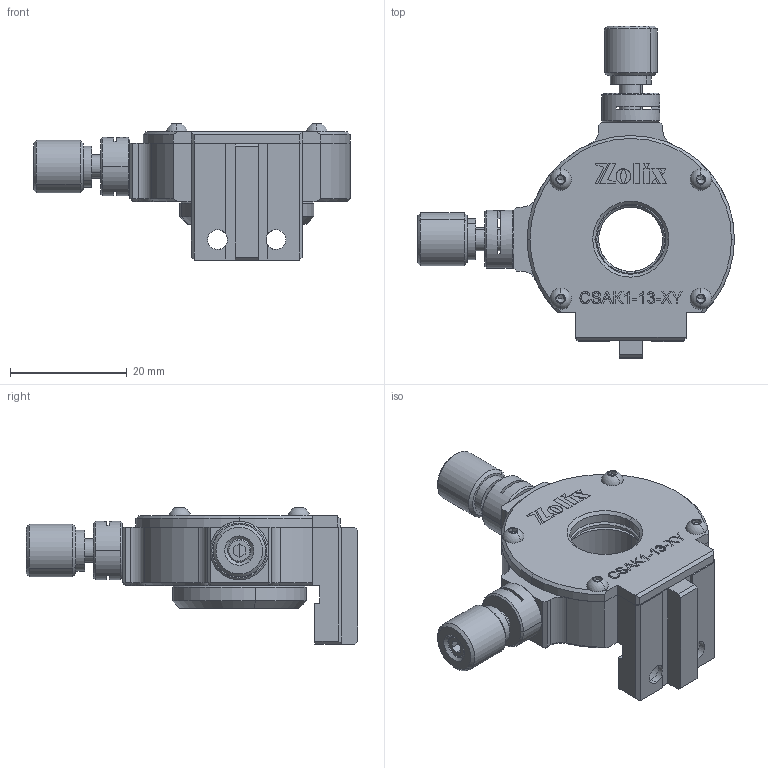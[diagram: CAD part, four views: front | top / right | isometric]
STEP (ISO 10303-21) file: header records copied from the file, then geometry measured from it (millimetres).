
FILE_DESCRIPTION (( 'STEP AP203' ), '1' );
FILE_NAME ('CSAK1-13-XY.STEP', '2024-06-19T05:35:58', ( '' ), ( '' ), 'SwSTEP 2.0', 'SolidWorks 2021', '' );
FILE_SCHEMA (( 'CONFIG_CONTROL_DESIGN' ));
Length unit declared in the file: millimetre
Products named in the file (1): CSAK1-13-XY
Bounding box: 54.25 x 56.8 x 23.3 mm (x, y, z)
Surface area: 8653.4 mm2 (no closed solid volume)
Topology: 0 solids, 24 shells, 339 faces, 1371 edges, 1040 vertices
Faces by surface type: plane 198, cone 65, cylinder 58, bspline 10, sphere 8
Entity records: 15783 total; most frequent: CARTESIAN_POINT 4584, DIRECTION 2211, ORIENTED_EDGE 2050, EDGE_CURVE 1363, VERTEX_POINT 1040, LINE 937, VECTOR 937, AXIS2_PLACEMENT_3D 637
